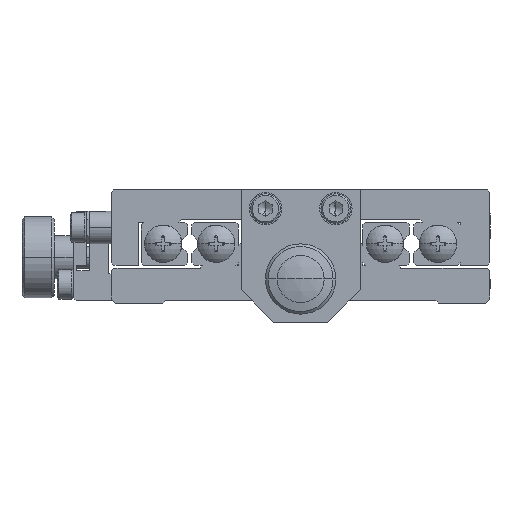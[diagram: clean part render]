
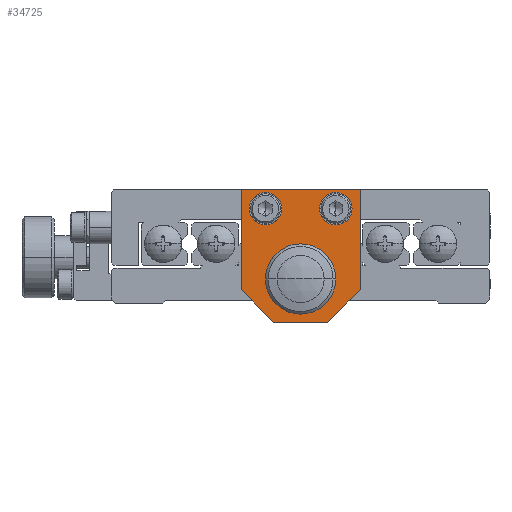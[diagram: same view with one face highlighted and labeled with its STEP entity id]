
A CAD part, front view. The second image highlights one B-rep face of the part: STEP entity #34725.
In plain terms, the highlighted planar face has unit normal (0, -1, 0).
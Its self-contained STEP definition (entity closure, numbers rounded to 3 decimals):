
#1290 = VERTEX_POINT ( 'NONE', #41787 ) ;
#1293 = EDGE_CURVE ( 'NONE', #1295, #1290, #41786, .T. ) ;
#1295 = VERTEX_POINT ( 'NONE', #41782 ) ;
#4523 = EDGE_CURVE ( 'NONE', #4524, #4649, #47147, .T. ) ;
#4524 = VERTEX_POINT ( 'NONE', #47137 ) ;
#4553 = EDGE_CURVE ( 'NONE', #4583, #4585, #47203, .T. ) ;
#4557 = EDGE_CURVE ( 'NONE', #4559, #4560, #47198, .T. ) ;
#4559 = VERTEX_POINT ( 'NONE', #47188 ) ;
#4560 = VERTEX_POINT ( 'NONE', #47252 ) ;
#4583 = VERTEX_POINT ( 'NONE', #47281 ) ;
#4585 = VERTEX_POINT ( 'NONE', #47279 ) ;
#4649 = VERTEX_POINT ( 'NONE', #47344 ) ;
#20349 = CARTESIAN_POINT ( 'NONE',  ( -5., -55.5, -10.5 ) ) ;
#20351 = DIRECTION ( 'NONE',  ( 0.707, 0., -0.707 ) ) ;
#20352 = VECTOR ( 'NONE', #20351, 1000. ) ;
#20353 = CARTESIAN_POINT ( 'NONE',  ( -11., -55.5, -4.5 ) ) ;
#20357 = LINE ( 'NONE', #20353, #20352 ) ;
#20380 = DIRECTION ( 'NONE',  ( 1., 0., 0. ) ) ;
#20381 = DIRECTION ( 'NONE',  ( 0., 1., 0. ) ) ;
#20382 = AXIS2_PLACEMENT_3D ( 'NONE', #20384, #20381, #20380 ) ;
#20383 = CIRCLE ( 'NONE', #20445, 5.25 ) ;
#20384 = CARTESIAN_POINT ( 'NONE',  ( 0., -55.5, -15.5 ) ) ;
#20385 = PLANE ( 'NONE',  #20382 ) ;
#20386 = FACE_OUTER_BOUND ( 'NONE', #34749, .T. ) ;
#20387 = FACE_BOUND ( 'NONE', #34742, .T. ) ;
#20388 = FACE_BOUND ( 'NONE', #34734, .T. ) ;
#20389 = FACE_BOUND ( 'NONE', #34728, .T. ) ;
#20390 = DIRECTION ( 'NONE',  ( 1., 0., 0. ) ) ;
#20391 = VECTOR ( 'NONE', #20390, 1000. ) ;
#20392 = CARTESIAN_POINT ( 'NONE',  ( -5., -55.5, -10.5 ) ) ;
#20398 = LINE ( 'NONE', #20392, #20391 ) ;
#20414 = CARTESIAN_POINT ( 'NONE',  ( 5., -55.5, -10.5 ) ) ;
#20415 = CARTESIAN_POINT ( 'NONE',  ( 11., -55.5, -4.5 ) ) ;
#20416 = DIRECTION ( 'NONE',  ( 0.707, 0., 0.707 ) ) ;
#20417 = VECTOR ( 'NONE', #20416, 1000. ) ;
#20418 = CARTESIAN_POINT ( 'NONE',  ( 5., -55.5, -10.5 ) ) ;
#20422 = LINE ( 'NONE', #20418, #20417 ) ;
#20432 = DIRECTION ( 'NONE',  ( 1., 0., 0. ) ) ;
#20433 = DIRECTION ( 'NONE',  ( 0., 1., 0. ) ) ;
#20434 = CARTESIAN_POINT ( 'NONE',  ( 6.5, -55.5, 10.5 ) ) ;
#20435 = AXIS2_PLACEMENT_3D ( 'NONE', #20434, #20433, #20432 ) ;
#20436 = CIRCLE ( 'NONE', #20435, 3. ) ;
#20437 = DIRECTION ( 'NONE',  ( 1., 0., 0. ) ) ;
#20438 = DIRECTION ( 'NONE',  ( 0., 1., 0. ) ) ;
#20439 = CARTESIAN_POINT ( 'NONE',  ( -6.5, -55.5, 10.5 ) ) ;
#20440 = AXIS2_PLACEMENT_3D ( 'NONE', #20439, #20438, #20437 ) ;
#20441 = CIRCLE ( 'NONE', #20440, 3. ) ;
#20442 = DIRECTION ( 'NONE',  ( 1., 0., 0. ) ) ;
#20443 = DIRECTION ( 'NONE',  ( 0., -1., 0. ) ) ;
#20444 = CARTESIAN_POINT ( 'NONE',  ( 0., -55.5, -2.5 ) ) ;
#20445 = AXIS2_PLACEMENT_3D ( 'NONE', #20444, #20443, #20442 ) ;
#20455 = DIRECTION ( 'NONE',  ( 0., 0., 1. ) ) ;
#20456 = VECTOR ( 'NONE', #20455, 1000. ) ;
#20457 = CARTESIAN_POINT ( 'NONE',  ( 11., -55.5, -4.5 ) ) ;
#20458 = LINE ( 'NONE', #20457, #20456 ) ;
#20488 = DIRECTION ( 'NONE',  ( 0., 0., -1. ) ) ;
#20489 = VECTOR ( 'NONE', #20488, 1000. ) ;
#20490 = CARTESIAN_POINT ( 'NONE',  ( -11., -55.5, 14. ) ) ;
#20491 = LINE ( 'NONE', #20490, #20489 ) ;
#20492 = CARTESIAN_POINT ( 'NONE',  ( -11., -55.5, -4.5 ) ) ;
#34614 = ORIENTED_EDGE ( 'NONE', *, *, #1293, .T. ) ;
#34616 = ORIENTED_EDGE ( 'NONE', *, *, #34829, .T. ) ;
#34618 = ORIENTED_EDGE ( 'NONE', *, *, #34695, .T. ) ;
#34620 = ORIENTED_EDGE ( 'NONE', *, *, #34719, .T. ) ;
#34695 = EDGE_CURVE ( 'NONE', #34826, #34696, #20357, .T. ) ;
#34696 = VERTEX_POINT ( 'NONE', #20349 ) ;
#34719 = EDGE_CURVE ( 'NONE', #34696, #34768, #20398, .T. ) ;
#34725 = ADVANCED_FACE ( 'NONE', ( #20389, #20388, #20387, #20386 ), #20385, .F. ) ;
#34728 = EDGE_LOOP ( 'NONE', ( #34729, #34730 ) ) ;
#34729 = ORIENTED_EDGE ( 'NONE', *, *, #4553, .F. ) ;
#34730 = ORIENTED_EDGE ( 'NONE', *, *, #34731, .F. ) ;
#34731 = EDGE_CURVE ( 'NONE', #4585, #4583, #20383, .T. ) ;
#34734 = EDGE_LOOP ( 'NONE', ( #34737, #34741 ) ) ;
#34737 = ORIENTED_EDGE ( 'NONE', *, *, #34739, .T. ) ;
#34739 = EDGE_CURVE ( 'NONE', #4649, #4524, #20441, .T. ) ;
#34741 = ORIENTED_EDGE ( 'NONE', *, *, #4523, .T. ) ;
#34742 = EDGE_LOOP ( 'NONE', ( #34743, #34746 ) ) ;
#34743 = ORIENTED_EDGE ( 'NONE', *, *, #34745, .T. ) ;
#34745 = EDGE_CURVE ( 'NONE', #4560, #4559, #20436, .T. ) ;
#34746 = ORIENTED_EDGE ( 'NONE', *, *, #4557, .T. ) ;
#34749 = EDGE_LOOP ( 'NONE', ( #34752, #34755, #34614, #34616, #34618, #34620 ) ) ;
#34752 = ORIENTED_EDGE ( 'NONE', *, *, #34767, .T. ) ;
#34755 = ORIENTED_EDGE ( 'NONE', *, *, #34796, .T. ) ;
#34767 = EDGE_CURVE ( 'NONE', #34768, #34770, #20422, .T. ) ;
#34768 = VERTEX_POINT ( 'NONE', #20414 ) ;
#34770 = VERTEX_POINT ( 'NONE', #20415 ) ;
#34796 = EDGE_CURVE ( 'NONE', #34770, #1295, #20458, .T. ) ;
#34826 = VERTEX_POINT ( 'NONE', #20492 ) ;
#34829 = EDGE_CURVE ( 'NONE', #1290, #34826, #20491, .T. ) ;
#41782 = CARTESIAN_POINT ( 'NONE',  ( 11., -55.5, 14. ) ) ;
#41783 = DIRECTION ( 'NONE',  ( -1., 0., 0. ) ) ;
#41784 = VECTOR ( 'NONE', #41783, 1000. ) ;
#41785 = CARTESIAN_POINT ( 'NONE',  ( 11., -55.5, 14. ) ) ;
#41786 = LINE ( 'NONE', #41785, #41784 ) ;
#41787 = CARTESIAN_POINT ( 'NONE',  ( -11., -55.5, 14. ) ) ;
#47137 = CARTESIAN_POINT ( 'NONE',  ( -9.5, -55.5, 10.5 ) ) ;
#47138 = DIRECTION ( 'NONE',  ( 1., 0., 0. ) ) ;
#47139 = DIRECTION ( 'NONE',  ( 0., 1., 0. ) ) ;
#47140 = CARTESIAN_POINT ( 'NONE',  ( -6.5, -55.5, 10.5 ) ) ;
#47141 = AXIS2_PLACEMENT_3D ( 'NONE', #47140, #47139, #47138 ) ;
#47147 = CIRCLE ( 'NONE', #47141, 3. ) ;
#47188 = CARTESIAN_POINT ( 'NONE',  ( 3.5, -55.5, 10.5 ) ) ;
#47194 = DIRECTION ( 'NONE',  ( 1., 0., 0. ) ) ;
#47195 = DIRECTION ( 'NONE',  ( 0., 1., 0. ) ) ;
#47196 = CARTESIAN_POINT ( 'NONE',  ( 6.5, -55.5, 10.5 ) ) ;
#47197 = AXIS2_PLACEMENT_3D ( 'NONE', #47196, #47195, #47194 ) ;
#47198 = CIRCLE ( 'NONE', #47197, 3. ) ;
#47199 = DIRECTION ( 'NONE',  ( 1., 0., 0. ) ) ;
#47200 = DIRECTION ( 'NONE',  ( 0., -1., 0. ) ) ;
#47201 = CARTESIAN_POINT ( 'NONE',  ( 0., -55.5, -2.5 ) ) ;
#47202 = AXIS2_PLACEMENT_3D ( 'NONE', #47201, #47200, #47199 ) ;
#47203 = CIRCLE ( 'NONE', #47202, 5.25 ) ;
#47252 = CARTESIAN_POINT ( 'NONE',  ( 9.5, -55.5, 10.5 ) ) ;
#47279 = CARTESIAN_POINT ( 'NONE',  ( -5.25, -55.5, -2.5 ) ) ;
#47281 = CARTESIAN_POINT ( 'NONE',  ( 5.25, -55.5, -2.5 ) ) ;
#47344 = CARTESIAN_POINT ( 'NONE',  ( -3.5, -55.5, 10.5 ) ) ;
